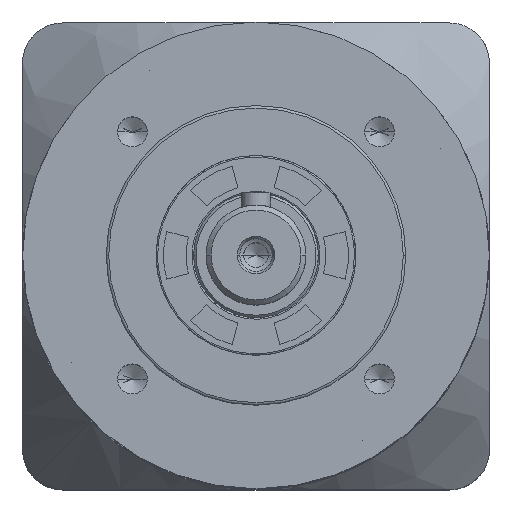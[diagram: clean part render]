
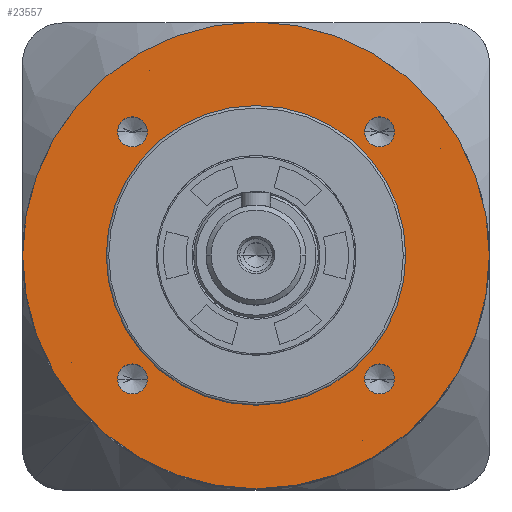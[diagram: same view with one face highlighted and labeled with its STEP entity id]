
A CAD part, top view. The second image highlights one B-rep face of the part: STEP entity #23557.
In plain terms, the highlighted planar face has unit normal (0, 0, 1).
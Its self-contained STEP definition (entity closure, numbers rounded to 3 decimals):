
#175 = CIRCLE ( 'NONE', #20355, 46.75 ) ;
#2096 = CARTESIAN_POINT ( 'NONE',  ( -46.75, 0., 21.1 ) ) ;
#2420 = DIRECTION ( 'NONE',  ( 0., 0., 1. ) ) ;
#2673 = VERTEX_POINT ( 'NONE', #12512 ) ;
#2782 = DIRECTION ( 'NONE',  ( 0., 0., 1. ) ) ;
#3196 = AXIS2_PLACEMENT_3D ( 'NONE', #4625, #27700, #6922 ) ;
#3937 = EDGE_CURVE ( 'NONE', #29275, #2673, #6859, .T. ) ;
#4107 = VERTEX_POINT ( 'NONE', #17347 ) ;
#4243 = DIRECTION ( 'NONE',  ( 1., 0., 0. ) ) ;
#4266 = CIRCLE ( 'NONE', #22536, 30. ) ;
#4625 = CARTESIAN_POINT ( 'NONE',  ( 0., 0., 21.1 ) ) ;
#4930 = CARTESIAN_POINT ( 'NONE',  ( 46.75, 0., 21.1 ) ) ;
#5032 = DIRECTION ( 'NONE',  ( 1., 0., 0. ) ) ;
#5042 = VERTEX_POINT ( 'NONE', #7489 ) ;
#5227 = DIRECTION ( 'NONE',  ( 0., 0., 1. ) ) ;
#5283 = ORIENTED_EDGE ( 'NONE', *, *, #8723, .F. ) ;
#5338 = DIRECTION ( 'NONE',  ( 0., 0., 1. ) ) ;
#5707 = CIRCLE ( 'NONE', #3196, 30. ) ;
#6005 = CARTESIAN_POINT ( 'NONE',  ( -27.749, 24.749, 21.1 ) ) ;
#6031 = VERTEX_POINT ( 'NONE', #26106 ) ;
#6358 = AXIS2_PLACEMENT_3D ( 'NONE', #20531, #27890, #6697 ) ;
#6697 = DIRECTION ( 'NONE',  ( 1., 0., 0. ) ) ;
#6805 = ORIENTED_EDGE ( 'NONE', *, *, #26750, .F. ) ;
#6859 = CIRCLE ( 'NONE', #20127, 3. ) ;
#6922 = DIRECTION ( 'NONE',  ( 1., 0., 0. ) ) ;
#7489 = CARTESIAN_POINT ( 'NONE',  ( 30., 0., 21.1 ) ) ;
#7692 = CARTESIAN_POINT ( 'NONE',  ( 24.749, 24.749, 21.1 ) ) ;
#7779 = DIRECTION ( 'NONE',  ( 1., 0., 0. ) ) ;
#7795 = FACE_BOUND ( 'NONE', #8768, .T. ) ;
#7820 = DIRECTION ( 'NONE',  ( 0., 0., 1. ) ) ;
#7940 = ORIENTED_EDGE ( 'NONE', *, *, #3937, .F. ) ;
#8161 = EDGE_CURVE ( 'NONE', #17259, #5042, #5707, .T. ) ;
#8526 = CIRCLE ( 'NONE', #15944, 3. ) ;
#8562 = CARTESIAN_POINT ( 'NONE',  ( -24.749, 24.749, 21.1 ) ) ;
#8723 = EDGE_CURVE ( 'NONE', #23478, #4107, #11795, .T. ) ;
#8768 = EDGE_LOOP ( 'NONE', ( #17625, #7940 ) ) ;
#8851 = FACE_OUTER_BOUND ( 'NONE', #20905, .T. ) ;
#9256 = CARTESIAN_POINT ( 'NONE',  ( -24.749, 24.749, 21.1 ) ) ;
#9441 = CARTESIAN_POINT ( 'NONE',  ( -30., 0., 21.1 ) ) ;
#9520 = EDGE_CURVE ( 'NONE', #18797, #6031, #8526, .T. ) ;
#9967 = CARTESIAN_POINT ( 'NONE',  ( 0., 0., 21.1 ) ) ;
#10218 = EDGE_LOOP ( 'NONE', ( #16273, #27371 ) ) ;
#10493 = CARTESIAN_POINT ( 'NONE',  ( 24.749, -24.749, 21.1 ) ) ;
#10518 = CARTESIAN_POINT ( 'NONE',  ( -24.749, -24.749, 21.1 ) ) ;
#11608 = EDGE_CURVE ( 'NONE', #5042, #17259, #4266, .T. ) ;
#11762 = CARTESIAN_POINT ( 'NONE',  ( 0., 0., 21.1 ) ) ;
#11795 = CIRCLE ( 'NONE', #24223, 3. ) ;
#11911 = EDGE_LOOP ( 'NONE', ( #26024, #5283 ) ) ;
#12512 = CARTESIAN_POINT ( 'NONE',  ( 27.749, -24.749, 21.1 ) ) ;
#12731 = DIRECTION ( 'NONE',  ( 0., 0., 1. ) ) ;
#12857 = EDGE_CURVE ( 'NONE', #4107, #23478, #22119, .T. ) ;
#13103 = CARTESIAN_POINT ( 'NONE',  ( 24.749, -24.749, 21.1 ) ) ;
#13502 = AXIS2_PLACEMENT_3D ( 'NONE', #21701, #12731, #7779 ) ;
#13599 = AXIS2_PLACEMENT_3D ( 'NONE', #9256, #18327, #25373 ) ;
#13907 = CARTESIAN_POINT ( 'NONE',  ( 0., 0., 21.1 ) ) ;
#13925 = FACE_BOUND ( 'NONE', #10218, .T. ) ;
#13929 = AXIS2_PLACEMENT_3D ( 'NONE', #10518, #17373, #17675 ) ;
#14704 = VERTEX_POINT ( 'NONE', #6005 ) ;
#14941 = AXIS2_PLACEMENT_3D ( 'NONE', #8562, #15733, #4243 ) ;
#14978 = CIRCLE ( 'NONE', #27257, 46.75 ) ;
#15689 = CIRCLE ( 'NONE', #14941, 3. ) ;
#15733 = DIRECTION ( 'NONE',  ( 0., 0., 1. ) ) ;
#15944 = AXIS2_PLACEMENT_3D ( 'NONE', #7692, #2782, #23823 ) ;
#16093 = FACE_BOUND ( 'NONE', #29771, .T. ) ;
#16220 = CARTESIAN_POINT ( 'NONE',  ( 21.749, 24.749, 21.1 ) ) ;
#16273 = ORIENTED_EDGE ( 'NONE', *, *, #22635, .F. ) ;
#17227 = VERTEX_POINT ( 'NONE', #2096 ) ;
#17259 = VERTEX_POINT ( 'NONE', #9441 ) ;
#17347 = CARTESIAN_POINT ( 'NONE',  ( -21.749, -24.749, 21.1 ) ) ;
#17373 = DIRECTION ( 'NONE',  ( 0., 0., 1. ) ) ;
#17625 = ORIENTED_EDGE ( 'NONE', *, *, #27645, .F. ) ;
#17675 = DIRECTION ( 'NONE',  ( 1., 0., 0. ) ) ;
#17832 = DIRECTION ( 'NONE',  ( 0., 0., 1. ) ) ;
#18311 = CARTESIAN_POINT ( 'NONE',  ( -27.749, -24.749, 21.1 ) ) ;
#18327 = DIRECTION ( 'NONE',  ( 0., 0., 1. ) ) ;
#18627 = CIRCLE ( 'NONE', #13502, 3. ) ;
#18797 = VERTEX_POINT ( 'NONE', #16220 ) ;
#18972 = FACE_BOUND ( 'NONE', #11911, .T. ) ;
#19582 = DIRECTION ( 'NONE',  ( 1., 0., 0. ) ) ;
#20127 = AXIS2_PLACEMENT_3D ( 'NONE', #10493, #24306, #19582 ) ;
#20352 = DIRECTION ( 'NONE',  ( 1., 0., 0. ) ) ;
#20355 = AXIS2_PLACEMENT_3D ( 'NONE', #13907, #2420, #20854 ) ;
#20531 = CARTESIAN_POINT ( 'NONE',  ( 0., 0., 21.1 ) ) ;
#20840 = PLANE ( 'NONE',  #6358 ) ;
#20854 = DIRECTION ( 'NONE',  ( 1., 0., 0. ) ) ;
#20905 = EDGE_LOOP ( 'NONE', ( #25016, #24233 ) ) ;
#20933 = VERTEX_POINT ( 'NONE', #21199 ) ;
#21199 = CARTESIAN_POINT ( 'NONE',  ( -21.749, 24.749, 21.1 ) ) ;
#21646 = CARTESIAN_POINT ( 'NONE',  ( -24.749, -24.749, 21.1 ) ) ;
#21701 = CARTESIAN_POINT ( 'NONE',  ( 24.749, 24.749, 21.1 ) ) ;
#21891 = AXIS2_PLACEMENT_3D ( 'NONE', #13103, #17832, #20352 ) ;
#22119 = CIRCLE ( 'NONE', #13929, 3. ) ;
#22128 = DIRECTION ( 'NONE',  ( 1., 0., 0. ) ) ;
#22536 = AXIS2_PLACEMENT_3D ( 'NONE', #11762, #5227, #25464 ) ;
#22538 = FACE_BOUND ( 'NONE', #27812, .T. ) ;
#22635 = EDGE_CURVE ( 'NONE', #6031, #18797, #18627, .T. ) ;
#22936 = ORIENTED_EDGE ( 'NONE', *, *, #11608, .F. ) ;
#22967 = CIRCLE ( 'NONE', #21891, 3. ) ;
#23478 = VERTEX_POINT ( 'NONE', #18311 ) ;
#23557 = ADVANCED_FACE ( 'NONE', ( #18972, #7795, #13925, #22538, #16093, #8851 ), #20840, .T. ) ;
#23823 = DIRECTION ( 'NONE',  ( 1., 0., 0. ) ) ;
#24223 = AXIS2_PLACEMENT_3D ( 'NONE', #21646, #7820, #22128 ) ;
#24233 = ORIENTED_EDGE ( 'NONE', *, *, #25864, .T. ) ;
#24306 = DIRECTION ( 'NONE',  ( 0., 0., 1. ) ) ;
#25016 = ORIENTED_EDGE ( 'NONE', *, *, #26834, .T. ) ;
#25366 = EDGE_CURVE ( 'NONE', #14704, #20933, #15689, .T. ) ;
#25373 = DIRECTION ( 'NONE',  ( 1., 0., 0. ) ) ;
#25464 = DIRECTION ( 'NONE',  ( 1., 0., 0. ) ) ;
#25687 = ORIENTED_EDGE ( 'NONE', *, *, #25366, .F. ) ;
#25864 = EDGE_CURVE ( 'NONE', #17227, #26911, #14978, .T. ) ;
#26024 = ORIENTED_EDGE ( 'NONE', *, *, #12857, .F. ) ;
#26106 = CARTESIAN_POINT ( 'NONE',  ( 27.749, 24.749, 21.1 ) ) ;
#26517 = CARTESIAN_POINT ( 'NONE',  ( 21.749, -24.749, 21.1 ) ) ;
#26750 = EDGE_CURVE ( 'NONE', #20933, #14704, #29329, .T. ) ;
#26834 = EDGE_CURVE ( 'NONE', #26911, #17227, #175, .T. ) ;
#26911 = VERTEX_POINT ( 'NONE', #4930 ) ;
#27257 = AXIS2_PLACEMENT_3D ( 'NONE', #9967, #5338, #5032 ) ;
#27371 = ORIENTED_EDGE ( 'NONE', *, *, #9520, .F. ) ;
#27645 = EDGE_CURVE ( 'NONE', #2673, #29275, #22967, .T. ) ;
#27700 = DIRECTION ( 'NONE',  ( 0., 0., 1. ) ) ;
#27769 = ORIENTED_EDGE ( 'NONE', *, *, #8161, .F. ) ;
#27812 = EDGE_LOOP ( 'NONE', ( #6805, #25687 ) ) ;
#27890 = DIRECTION ( 'NONE',  ( 0., 0., 1. ) ) ;
#29275 = VERTEX_POINT ( 'NONE', #26517 ) ;
#29329 = CIRCLE ( 'NONE', #13599, 3. ) ;
#29771 = EDGE_LOOP ( 'NONE', ( #27769, #22936 ) ) ;
